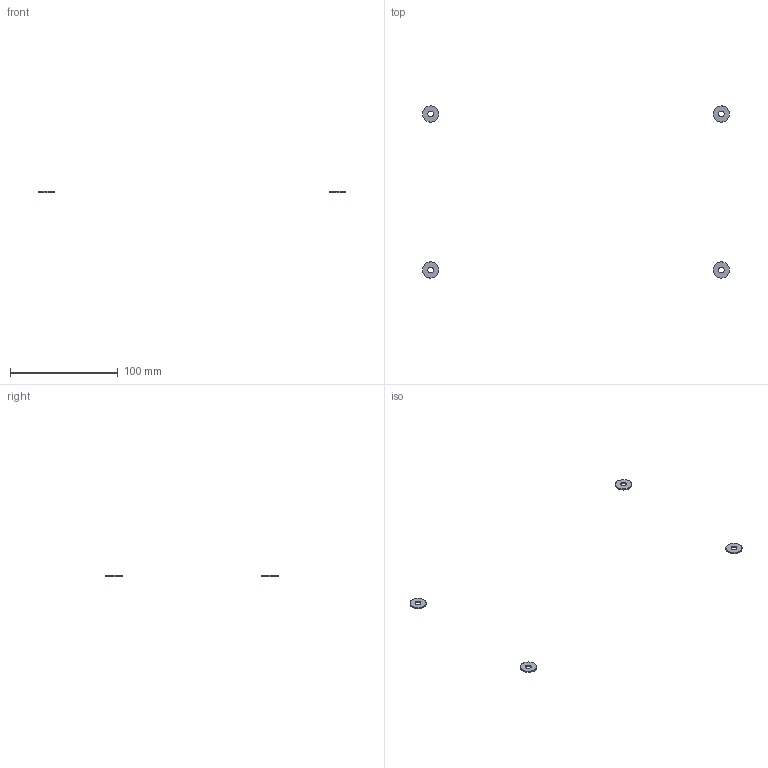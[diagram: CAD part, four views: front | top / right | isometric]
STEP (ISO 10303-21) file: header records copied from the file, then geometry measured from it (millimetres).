
FILE_DESCRIPTION(/* description */ (''),/* implementation_level */ '2;1');
FILE_NAME(/* name */ '10.optics-laser#10.5#PACK-SPWFN5',/* time_stamp */ '2014-12-01T20:19:32+01:00',/* author */ (''),/* organization */ (''),/* preprocessor_version */ 'ST-DEVELOPER v14',/* originating_system */ '',/* authorisation */ '');
FILE_SCHEMA (('AUTOMOTIVE_DESIGN'));
Length unit declared in the file: millimetre
Products named in the file (2): Document; washer DIN9021, form G, M5
Assembly tree (4 placements, depth 2):
  Document
    washer DIN9021, form G, M5  x4
Bounding box: 285 x 160 x 1.2 mm (x, y, z)
Volume: 744.6 mm3; surface area: 1547.1 mm2
Topology: 4 solids, 4 shells, 24 faces, 48 edges, 32 vertices
Faces by surface type: bspline 16, plane 8
Entity records: 440 total; most frequent: CARTESIAN_POINT 209, ORIENTED_EDGE 24, PCURVE 24, DEFINITIONAL_REPRESENTATION 24, B_SPLINE_CURVE_WITH_KNOTS 20, DIRECTION 16, SURFACE_CURVE 12, EDGE_CURVE 12
